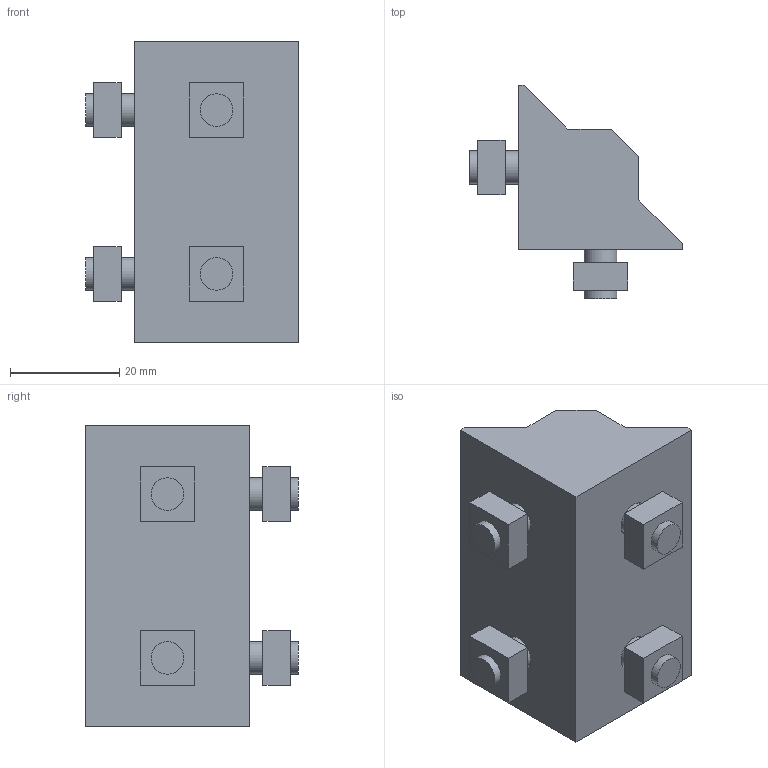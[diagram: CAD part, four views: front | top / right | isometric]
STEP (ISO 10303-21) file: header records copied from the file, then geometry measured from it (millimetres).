
FILE_DESCRIPTION((''),'2;1');
FILE_NAME('C:\Documents and Settings\古川典政\My Documents\Inventor\HP用\MasterData\BRACKET\M6\ABLB-3055-6.stp','2008-07-31T09:18:13',(''),(''),'Autodesk Inventor 2008','Autodesk Inventor 2008','');
FILE_SCHEMA(('CONFIG_CONTROL_DESIGN'));
Length unit declared in the file: millimetre
Products named in the file (10): ABLB-3055-6; ABLB-3055-61; ABLB-3055-62; ABLB-3055-63; ABLB-3055-64; ABLB-3055-65; ABLB-3055-66; ABLB-3055-67; ABLB-3055-68; ABLB-3055-69
Assembly tree (9 placements, depth 2):
  ABLB-3055-6
    ABLB-3055-61
    ABLB-3055-62
    ABLB-3055-63
    ABLB-3055-64
    ABLB-3055-65
    ABLB-3055-66
    ABLB-3055-67
    ABLB-3055-68
    ABLB-3055-69
Bounding box: 39 x 39 x 55 mm (x, y, z)
Volume: 29234.3 mm3; surface area: 12548.6 mm2
Topology: 9 solids, 9 shells, 81 faces, 173 edges, 114 vertices
Faces by surface type: plane 53, bspline 20, cylinder 8
Full cylindrical faces by diameter (mm): 6 x4, 10 x4
Entity records: 2524 total; most frequent: CARTESIAN_POINT 635, DIRECTION 351, ORIENTED_EDGE 290, EDGE_CURVE 145, AXIS2_PLACEMENT_3D 126, EDGE_LOOP 121, VERTEX_POINT 106, VECTOR 99
